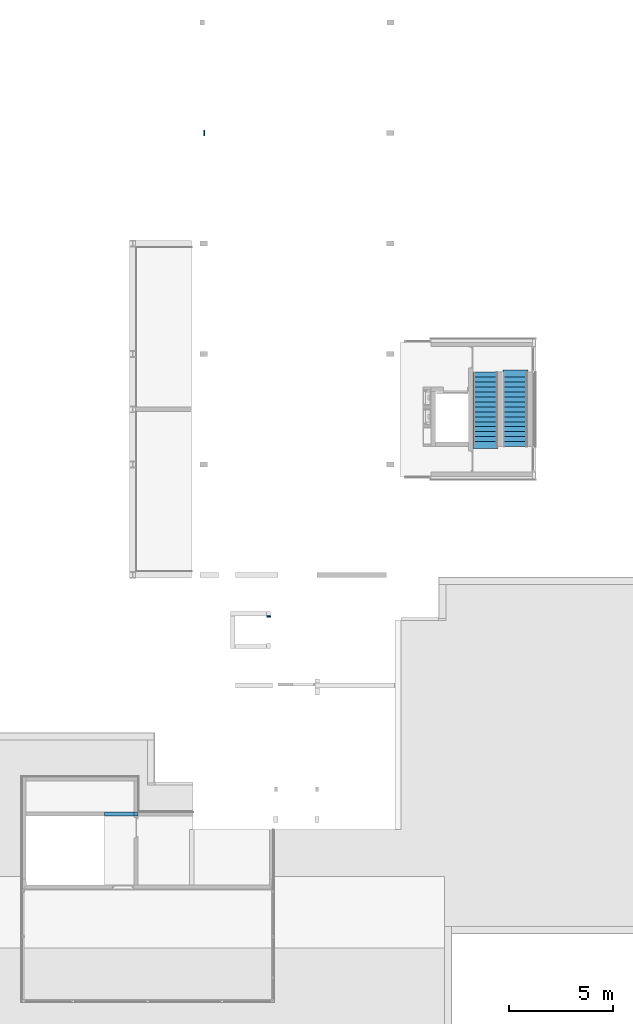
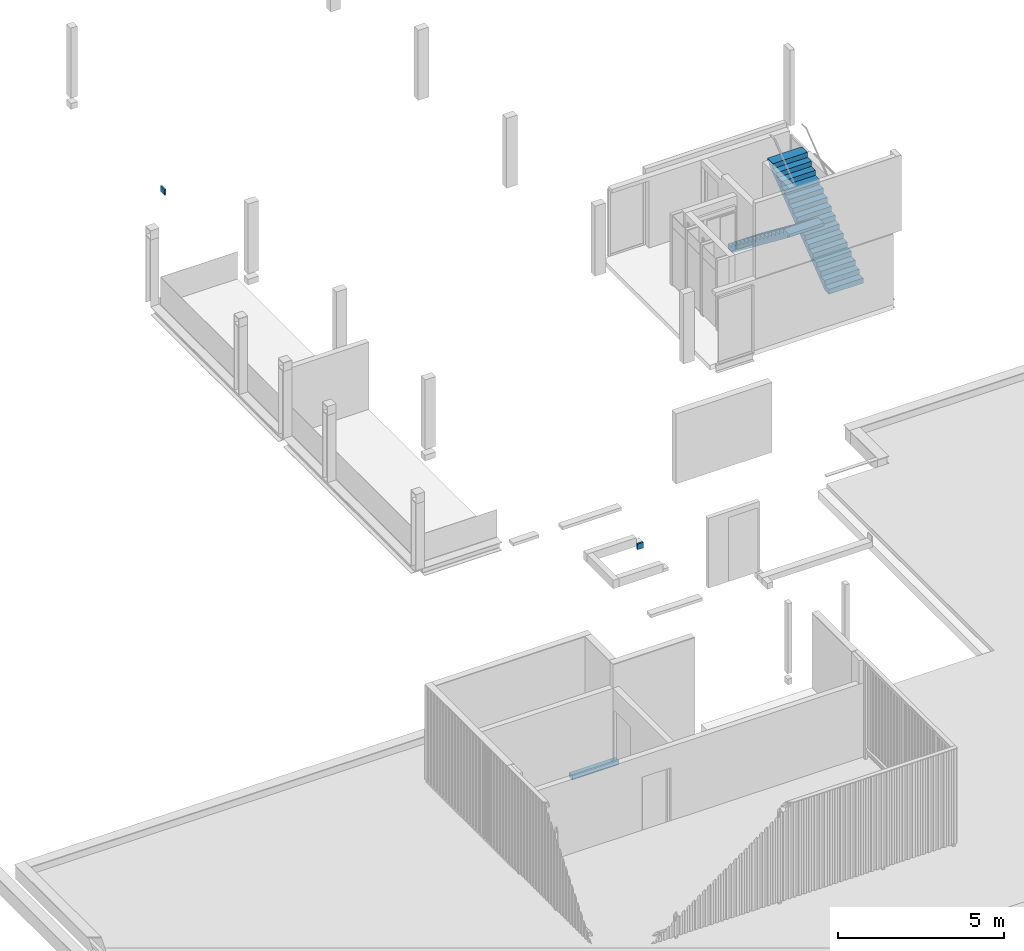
# One storey, part 8 of 22: 3 building element parts, 2 stair flights, 2 walls, 3 elements without a shape of their own.
"""IFC2X3 building model written with IfcOpenShell, lengths in millimetres."""

from ifc_helpers import new_model, entity, si_unit, converted_unit, derived_unit, money_unit, direction, frame, origin_with_axes, place, context, subcontext, project, spatial, faceted_brep, material, type_object, element, aggregate, save


model = new_model("IFC2X3")

# Units and contexts
model_context = context("Model", 3, precision=0.01, world=origin_with_axes(), true_north=direction((0.0, 1.0)))
body_context = subcontext(model_context, "Body", "Model", "MODEL_VIEW")
ifc_project = project(units=[si_unit("LENGTHUNIT", "METRE", prefix="MILLI"), si_unit("AREAUNIT", "SQUARE_METRE"), si_unit("VOLUMEUNIT", "CUBIC_METRE"), converted_unit("PLANEANGLEUNIT", "DEGREE", entity("IfcPlaneAngleMeasure", 0.0174532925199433), si_unit("PLANEANGLEUNIT", "RADIAN"), dimensions=[0, 0, 0, 0, 0, 0, 0]), money_unit("EUR"), converted_unit("TIMEUNIT", "Year", entity("IfcTimeMeasure", 31557600.0), si_unit("TIMEUNIT", "SECOND"), dimensions=[0, 0, 1, 0, 0, 0, 0]), si_unit("MASSUNIT", "GRAM", prefix="KILO"), si_unit("THERMODYNAMICTEMPERATUREUNIT", "DEGREE_CELSIUS"), si_unit("LUMINOUSINTENSITYUNIT", "LUMEN"), si_unit("ENERGYUNIT", "JOULE", prefix="MEGA"), derived_unit("THERMALCONDUCTANCEUNIT", [(si_unit("POWERUNIT", "WATT"), 1), (si_unit("LENGTHUNIT", "METRE"), -1), (si_unit("THERMODYNAMICTEMPERATUREUNIT", "KELVIN"), -1)]), derived_unit("SPECIFICHEATCAPACITYUNIT", [(si_unit("ENERGYUNIT", "JOULE"), 1), (si_unit("MASSUNIT", "GRAM", prefix="KILO"), -1), (si_unit("THERMODYNAMICTEMPERATUREUNIT", "KELVIN"), -1)]), derived_unit("MASSDENSITYUNIT", [(si_unit("MASSUNIT", "GRAM", prefix="KILO"), 1), (si_unit("VOLUMEUNIT", "CUBIC_METRE"), -1)])], contexts=[model_context])

# Site, building, storey
site_placement = place(None, origin_with_axes())
site = spatial("IfcSite", under=ifc_project, at=site_placement, Name="Site", CompositionType="ELEMENT")
building_placement = place(site_placement, origin_with_axes())
building = spatial("IfcBuilding", under=site, at=building_placement, Name="Naam gebouw", CompositionType="ELEMENT")
storey_placement = place(building_placement, frame((0.0, 0.0, 11150.0), z_axis=(0.0, 0.0, 1.0), x_axis=(1.0, 0.0, 0.0)))
storey = spatial("IfcBuildingStorey", under=building, at=storey_placement, Name="3e verdieping/dak N", CompositionType="ELEMENT", Elevation=11150.0)

# Walls
ifc_material_1 = material(Name="ALG - CONSTRUCTIEF")
wall_type_1 = type_object("IfcWallType", Name="ALG - CONSTRUCTIEF 200", PredefinedType="NOTDEFINED")
wall_1_placement = place(storey_placement, frame((23855.44427079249, 25919.44436129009, -99.99999999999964), z_axis=(0.0, 0.0, 1.0), x_axis=(0.0, 1.0, 0.0)))
element("IfcWall", 1, at=wall_1_placement, inside=storey, type_object=wall_type_1, material=ifc_material_1, Name="_Wand-x", context=body_context, shape_type="Brep", body=[
    faceted_brep([(61.46806381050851, 100.0000000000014, 0.0), (61.46806381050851, 100.0000000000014, 210.0000000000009), (61.46806381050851, -100.0000000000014, 210.0000000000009), (61.46806381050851, -100.0000000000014, 0.0), (0.0, 100.0000000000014, 0.0), (0.0, 100.0000000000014, 210.0000000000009), (0.0, -100.0000000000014, 210.0000000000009), (0.0, -100.0000000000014, 0.0)], [[[0, 1, 2, 3]], [[4, 5, 1, 0]], [[5, 6, 2, 1]], [[3, 2, 6, 7]], [[7, 4, 0, 3]], [[7, 6, 5, 4]]]),
])
wall_type_2 = type_object("IfcWallType", Name="ALG - CONSTRUCTIEF 250", PredefinedType="NOTDEFINED")
wall_2_placement = place(storey_placement, frame((20420.0, 49275.9124251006, -99.99999999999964), z_axis=(0.0, 0.0, 1.0), x_axis=(1.0, 0.0, 0.0)))
element("IfcWall", 2, at=wall_2_placement, inside=storey, type_object=wall_type_2, material=ifc_material_1, Name="_Wand-x", context=body_context, shape_type="Brep", body=[
    faceted_brep([(304.9999999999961, 125.0, 0.0), (304.9999999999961, 125.0, 210.0000000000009), (350.0000000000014, 125.0, 210.0000000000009), (350.0000000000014, 125.0, 0.0), (304.9999999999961, -125.0, 0.0), (304.9999999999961, -125.0, 210.0000000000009), (350.0000000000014, -125.0, 210.0000000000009), (350.0000000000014, -125.0, 0.0)], [[[0, 1, 2, 3]], [[4, 5, 1, 0]], [[5, 6, 2, 1]], [[3, 2, 6, 7]], [[3, 7, 4, 0]], [[7, 6, 5, 4]]]),
])

# Stair, stair flight
stair_1_placement = place(storey_placement, frame((0.0, 0.0, -11150.0), z_axis=(0.0, 0.0, 1.0), x_axis=(1.0, 0.0, 0.0)))
stair_1 = element("IfcStair", 3, at=stair_1_placement, inside=storey, Name="Precast Stair:Stair", ObjectType="Precast Stair:24_trap - prefab", ShapeType="NOTDEFINED")
ifc_material_2 = material(Name="beton")
stair_flight_type = type_object("IfcStairFlightType", Name="Monolithic Run:prefab trap", PredefinedType="STRAIGHT")
stair_flight_1_placement = place(stair_1_placement, frame((34923.00000006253, 34045.91242631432, 11460.0), z_axis=(0.0, 0.0, 1.0), x_axis=(0.0, 1.0, 0.0)))
stair_flight_1 = element("IfcStairFlight", 4, at=stair_flight_1_placement, type_object=stair_flight_type, material=ifc_material_2, Name="Precast Stair:Stair:2462951 Run 1", RiserHeight=0.605862, TreadLength=0.787402, context=body_context, shape_type="Brep", body=[
    faceted_brep([(3460.0, 0.0, 184.66666666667), (3700.0, 0.0, 184.66666666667), (3700.0, 1200.0, 184.66666666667), (3460.0, 1200.0, 184.66666666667), (3460.0, 0.0, 0.0), (3700.0, 0.0, 0.0), (3700.0, 1200.0, 0.0), (3460.0, 1200.0, 0.0), (3460.0, 1200.0, 369.33333333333), (3460.0, 0.0, 369.33333333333), (3220.0, 0.0, 369.33333333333), (3220.0, 0.0, 180.06894961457), (3454.02462765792, 0.0, 0.0), (3454.02462765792, 1200.0, 0.0), (3220.0, 1200.0, 180.06894961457), (3220.0, 1200.0, 369.33333333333), (3220.0, 0.0, 554.0), (2980.0, 0.0, 554.0), (2980.0, 0.0, 364.73561628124), (2740.0, 0.0, 549.4022829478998), (2500.0, 0.0, 734.0689496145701), (2260.0, 0.0, 918.7356162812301), (2020.0, 0.0, 1103.4022829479), (1780.0, 0.0, 1288.06894961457), (1540.0, 0.0, 1472.73561628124), (1300.0, 0.0, 1657.4022829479), (1060.0, 0.0, 1842.06894961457), (820.0000000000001, 0.0, 2026.73561628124), (580.0, 0.0, 2211.40228294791), (340.0, 0.0, 2396.06894961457), (100.0, 0.0, 2580.73561628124), (100.0, 1200.0, 2580.73561628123), (340.0, 1200.0, 2396.06894961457), (580.0, 1200.0, 2211.4022829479), (820.0000000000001, 1200.0, 2026.73561628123), (1060.0, 1200.0, 1842.06894961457), (1300.0, 1200.0, 1657.4022829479), (1540.0, 1200.0, 1472.73561628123), (1780.0, 1200.0, 1288.06894961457), (2020.0, 1200.0, 1103.4022829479), (2260.0, 1200.0, 918.7356162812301), (2500.0, 1200.0, 734.0689496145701), (2740.0, 1200.0, 549.4022829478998), (2980.0, 1200.0, 364.73561628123), (2980.0, 1200.0, 554.0), (3220.0, 1200.0, 554.0), (2980.0, 0.0, 738.6666666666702), (2740.0, 0.0, 738.6666666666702), (2740.0, 0.0, 923.33333333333), (2500.0, 0.0, 923.33333333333), (2500.0, 0.0, 1108.0), (2260.0, 0.0, 1108.0), (2260.0, 0.0, 1292.66666666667), (2020.0, 0.0, 1292.66666666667), (2020.0, 0.0, 1477.33333333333), (1780.0, 0.0, 1477.33333333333), (1780.0, 0.0, 1662.0), (1540.0, 0.0, 1662.0), (1540.0, 0.0, 1846.66666666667), (1300.0, 0.0, 1846.66666666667), (1300.0, 0.0, 2031.33333333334), (1060.0, 0.0, 2031.33333333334), (1060.0, 0.0, 2216.0), (820.0000000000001, 0.0, 2216.0), (820.0000000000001, 0.0, 2400.66666666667), (580.0, 0.0, 2400.66666666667), (580.0, 0.0, 2585.33333333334), (340.0, 0.0, 2585.33333333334), (340.0, 0.0, 2770.0), (0.0, 0.0, 2770.0), (0.0, 0.0, 2670.0), (100.0, 0.0, 2670.0), (100.0, 1200.0, 2670.0), (0.0, 1200.0, 2770.0), (340.0, 1200.0, 2770.0), (340.0, 1200.0, 2585.33333333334), (0.0, 1200.0, 2670.0), (580.0, 1200.0, 2585.33333333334), (580.0, 1200.0, 2400.66666666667), (820.0000000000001, 1200.0, 2400.66666666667), (820.0000000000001, 1200.0, 2216.0), (1060.0, 1200.0, 2216.0), (1060.0, 1200.0, 2031.33333333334), (1300.0, 1200.0, 2031.33333333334), (1300.0, 1200.0, 1846.66666666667), (1540.0, 1200.0, 1846.66666666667), (1540.0, 1200.0, 1662.0), (1780.0, 1200.0, 1662.0), (1780.0, 1200.0, 1477.33333333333), (2020.0, 1200.0, 1477.33333333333), (2020.0, 1200.0, 1292.66666666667), (2260.0, 1200.0, 1292.66666666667), (2260.0, 1200.0, 1108.0), (2500.0, 1200.0, 1108.0), (2500.0, 1200.0, 923.33333333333), (2740.0, 1200.0, 923.33333333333), (2740.0, 1200.0, 738.6666666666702), (2980.0, 1200.0, 738.6666666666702)], [[[0, 1, 2, 3]], [[1, 0, 4, 5]], [[2, 1, 5, 6]], [[3, 2, 6, 7]], [[0, 3, 8, 9]], [[4, 0, 9, 10, 11, 12]], [[5, 4, 12, 13, 7, 6]], [[3, 7, 13, 14, 15, 8]], [[10, 9, 8, 15]], [[16, 17, 18, 11, 10]], [[13, 12, 11, 18, 19, 20, 21, 22, 23, 24, 25, 26, 27, 28, 29, 30, 31, 32, 33, 34, 35, 36, 37, 38, 39, 40, 41, 42, 43, 14]], [[44, 45, 15, 14, 43]], [[10, 15, 45, 16]], [[17, 16, 45, 44]], [[46, 47, 19, 18, 17]], [[48, 49, 20, 19, 47]], [[50, 51, 21, 20, 49]], [[52, 53, 22, 21, 51]], [[54, 55, 23, 22, 53]], [[56, 57, 24, 23, 55]], [[58, 59, 25, 24, 57]], [[60, 61, 26, 25, 59]], [[62, 63, 27, 26, 61]], [[64, 65, 28, 27, 63]], [[66, 67, 29, 28, 65]], [[68, 69, 70, 71, 30, 29, 67]], [[31, 30, 71, 72]], [[73, 74, 75, 32, 31, 72, 76]], [[75, 77, 78, 33, 32]], [[78, 79, 80, 34, 33]], [[80, 81, 82, 35, 34]], [[82, 83, 84, 36, 35]], [[84, 85, 86, 37, 36]], [[86, 87, 88, 38, 37]], [[88, 89, 90, 39, 38]], [[90, 91, 92, 40, 39]], [[92, 93, 94, 41, 40]], [[94, 95, 96, 42, 41]], [[96, 97, 44, 43, 42]], [[17, 44, 97, 46]], [[47, 46, 97, 96]], [[49, 48, 95, 94]], [[47, 96, 95, 48]], [[51, 50, 93, 92]], [[49, 94, 93, 50]], [[53, 52, 91, 90]], [[51, 92, 91, 52]], [[55, 54, 89, 88]], [[53, 90, 89, 54]], [[57, 56, 87, 86]], [[55, 88, 87, 56]], [[59, 58, 85, 84]], [[57, 86, 85, 58]], [[61, 60, 83, 82]], [[59, 84, 83, 60]], [[63, 62, 81, 80]], [[61, 82, 81, 62]], [[65, 64, 79, 78]], [[63, 80, 79, 64]], [[67, 66, 77, 75]], [[65, 78, 77, 66]], [[68, 74, 73, 69]], [[76, 70, 69, 73]], [[76, 72, 71, 70]], [[67, 75, 74, 68]]]),
])
aggregate(stair_1, [stair_flight_1])

stair_2_placement = place(storey_placement, frame((0.0, 0.0, -11150.0), z_axis=(0.0, 0.0, 1.0), x_axis=(1.0, 0.0, 0.0)))
stair_2 = element("IfcStair", 5, at=stair_2_placement, inside=storey, Name="Precast Stair:Stair", ObjectType="Precast Stair:24_trap - prefab", ShapeType="NOTDEFINED")
stair_flight_2_placement = place(stair_2_placement, frame((36357.00000004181, 34145.91242629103, 11460.0), z_axis=(0.0, 0.0, 1.0), x_axis=(0.0, 1.0, 0.0)))
stair_flight_2 = element("IfcStairFlight", 6, at=stair_flight_2_placement, type_object=stair_flight_type, material=ifc_material_2, Name="Precast Stair:Stair:2462938 Run 1", RiserHeight=0.605862, TreadLength=0.787402, context=body_context, shape_type="Brep", body=[
    faceted_brep([(240.0, 1200.0, 184.66666666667), (0.0, 1200.0, 184.66666666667), (0.0, 0.0, 184.66666666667), (240.0, 0.0, 184.66666666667), (240.0, 1200.0, 0.0), (0.0, 1200.0, 0.0), (0.0, 0.0, 0.0), (240.0, 0.0, 0.0), (240.0, 0.0, 369.33333333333), (240.0, 1200.0, 369.33333333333), (480.0000000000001, 1200.0, 369.33333333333), (480.0000000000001, 1200.0, 180.06894961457), (245.97537234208, 1200.0, 0.0), (245.97537234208, 0.0, 0.0), (480.0000000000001, 0.0, 180.06894961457), (480.0000000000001, 0.0, 369.33333333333), (480.0000000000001, 1200.0, 554.0), (720.0000000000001, 1200.0, 554.0), (720.0000000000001, 1200.0, 364.73561628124), (960.0, 1200.0, 549.4022829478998), (1200.0, 1200.0, 734.0689496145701), (1440.0, 1200.0, 918.7356162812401), (1680.0, 1200.0, 1103.4022829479), (1920.0, 1200.0, 1288.06894961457), (2160.0, 1200.0, 1472.73561628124), (2400.0, 1200.0, 1657.40228294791), (2640.0, 1200.0, 1842.06894961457), (2880.0, 1200.0, 2026.73561628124), (3120.0, 1200.0, 2211.40228294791), (3360.0, 1200.0, 2396.06894961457), (3600.0, 1200.0, 2580.73561628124), (3600.0, 0.0, 2580.73561628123), (3360.0, 0.0, 2396.06894961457), (3120.0, 0.0, 2211.4022829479), (2880.0, 0.0, 2026.73561628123), (2640.0, 0.0, 1842.06894961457), (2400.0, 0.0, 1657.4022829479), (2160.0, 0.0, 1472.73561628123), (1920.0, 0.0, 1288.06894961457), (1680.0, 0.0, 1103.4022829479), (1440.0, 0.0, 918.7356162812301), (1200.0, 0.0, 734.0689496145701), (960.0, 0.0, 549.4022829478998), (720.0000000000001, 0.0, 364.73561628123), (720.0000000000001, 0.0, 554.0), (480.0000000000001, 0.0, 554.0), (720.0000000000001, 1200.0, 738.6666666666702), (960.0, 1200.0, 738.6666666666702), (960.0, 1200.0, 923.33333333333), (1200.0, 1200.0, 923.33333333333), (1200.0, 1200.0, 1108.0), (1440.0, 1200.0, 1108.0), (1440.0, 1200.0, 1292.66666666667), (1680.0, 1200.0, 1292.66666666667), (1680.0, 1200.0, 1477.33333333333), (1920.0, 1200.0, 1477.33333333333), (1920.0, 1200.0, 1662.0), (2160.0, 1200.0, 1662.0), (2160.0, 1200.0, 1846.66666666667), (2400.0, 1200.0, 1846.66666666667), (2400.0, 1200.0, 2031.33333333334), (2640.0, 1200.0, 2031.33333333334), (2640.0, 1200.0, 2216.0), (2880.0, 1200.0, 2216.0), (2880.0, 1200.0, 2400.66666666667), (3120.0, 1200.0, 2400.66666666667), (3120.0, 1200.0, 2585.33333333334), (3360.0, 1200.0, 2585.33333333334), (3360.0, 1200.0, 2770.0), (3700.0, 1200.0, 2770.0), (3700.0, 1200.0, 2670.0), (3600.0, 1200.0, 2670.0), (3600.0, 0.0, 2670.0), (3700.0, 0.0, 2770.0), (3360.0, 0.0, 2770.0), (3360.0, 0.0, 2585.33333333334), (3700.0, 0.0, 2670.0), (3120.0, 0.0, 2585.33333333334), (3120.0, 0.0, 2400.66666666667), (2880.0, 0.0, 2400.66666666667), (2880.0, 0.0, 2216.0), (2640.0, 0.0, 2216.0), (2640.0, 0.0, 2031.33333333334), (2400.0, 0.0, 2031.33333333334), (2400.0, 0.0, 1846.66666666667), (2160.0, 0.0, 1846.66666666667), (2160.0, 0.0, 1662.0), (1920.0, 0.0, 1662.0), (1920.0, 0.0, 1477.33333333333), (1680.0, 0.0, 1477.33333333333), (1680.0, 0.0, 1292.66666666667), (1440.0, 0.0, 1292.66666666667), (1440.0, 0.0, 1108.0), (1200.0, 0.0, 1108.0), (1200.0, 0.0, 923.33333333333), (960.0, 0.0, 923.33333333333), (960.0, 0.0, 738.6666666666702), (720.0000000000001, 0.0, 738.6666666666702)], [[[0, 1, 2, 3]], [[1, 0, 4, 5]], [[2, 1, 5, 6]], [[3, 2, 6, 7]], [[0, 3, 8, 9]], [[4, 0, 9, 10, 11, 12]], [[5, 4, 12, 13, 7, 6]], [[3, 7, 13, 14, 15, 8]], [[10, 9, 8, 15]], [[16, 17, 18, 11, 10]], [[13, 12, 11, 18, 19, 20, 21, 22, 23, 24, 25, 26, 27, 28, 29, 30, 31, 32, 33, 34, 35, 36, 37, 38, 39, 40, 41, 42, 43, 14]], [[44, 45, 15, 14, 43]], [[10, 15, 45, 16]], [[17, 16, 45, 44]], [[46, 47, 19, 18, 17]], [[48, 49, 20, 19, 47]], [[50, 51, 21, 20, 49]], [[52, 53, 22, 21, 51]], [[54, 55, 23, 22, 53]], [[56, 57, 24, 23, 55]], [[58, 59, 25, 24, 57]], [[60, 61, 26, 25, 59]], [[62, 63, 27, 26, 61]], [[64, 65, 28, 27, 63]], [[66, 67, 29, 28, 65]], [[68, 69, 70, 71, 30, 29, 67]], [[31, 30, 71, 72]], [[73, 74, 75, 32, 31, 72, 76]], [[75, 77, 78, 33, 32]], [[78, 79, 80, 34, 33]], [[80, 81, 82, 35, 34]], [[82, 83, 84, 36, 35]], [[84, 85, 86, 37, 36]], [[86, 87, 88, 38, 37]], [[88, 89, 90, 39, 38]], [[90, 91, 92, 40, 39]], [[92, 93, 94, 41, 40]], [[94, 95, 96, 42, 41]], [[96, 97, 44, 43, 42]], [[17, 44, 97, 46]], [[47, 46, 97, 96]], [[49, 48, 95, 94]], [[47, 96, 95, 48]], [[51, 50, 93, 92]], [[49, 94, 93, 50]], [[53, 52, 91, 90]], [[51, 92, 91, 52]], [[55, 54, 89, 88]], [[53, 90, 89, 54]], [[57, 56, 87, 86]], [[55, 88, 87, 56]], [[59, 58, 85, 84]], [[57, 86, 85, 58]], [[61, 60, 83, 82]], [[59, 84, 83, 60]], [[63, 62, 81, 80]], [[61, 82, 81, 62]], [[65, 64, 79, 78]], [[63, 80, 79, 64]], [[67, 66, 77, 75]], [[65, 78, 77, 66]], [[68, 74, 73, 69]], [[76, 70, 69, 73]], [[76, 72, 71, 70]], [[67, 75, 74, 68]]]),
])
aggregate(stair_2, [stair_flight_2])

# Slab, building element parts
slab_type = type_object("IfcSlabType", Name="Isolatie platdak 154", PredefinedType="NOTDEFINED")
slab_placement = place(storey_placement, frame((15940.50051848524, 16515.9124251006, 153.9999999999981), z_axis=(0.0, 0.0, 1.0), x_axis=(1.0, 0.0, 0.0)))
slab = element("IfcSlab", 7, at=slab_placement, inside=storey, type_object=slab_type, Name="_Vloer-x", PredefinedType="NOTDEFINED")
ifc_material_3 = material(Name="Membraan - waterdicht")
building_element_part_1_placement = place(slab_placement, origin_with_axes())
building_element_part_1 = element("IfcBuildingElementPart", 8, at=building_element_part_1_placement, material=ifc_material_3, Name="Membraan - waterdicht", context=body_context, shape_type="Brep", body=[
    faceted_brep([(1417.239255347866, -199.9999999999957, 0.0), (1417.239255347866, 0.0, 0.0), (0.0, 0.0, 0.0), (0.0, -199.9999999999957, 0.0), (1417.239255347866, 0.0, -2.000000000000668), (1417.239255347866, -199.9999999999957, -2.000000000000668), (0.0, 0.0, -2.000000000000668), (0.0, -199.9999999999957, -2.000000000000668)], [[[0, 1, 2, 3]], [[4, 1, 0, 5]], [[1, 4, 6, 2]], [[6, 7, 3, 2]], [[5, 0, 3, 7]], [[4, 5, 7, 6]]]),
])
ifc_material_4 = material(Name="Isolatie - Kunststof hard")
building_element_part_2_placement = place(slab_placement, origin_with_axes())
building_element_part_2 = element("IfcBuildingElementPart", 9, at=building_element_part_2_placement, material=ifc_material_4, Name="Isolatie - Kunststof hard", context=body_context, shape_type="Brep", body=[
    faceted_brep([(0.0, -199.9999999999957, -152.000000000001), (0.0, -199.9999999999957, -2.000000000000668), (0.0, 0.0, -2.000000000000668), (0.0, 0.0, -152.000000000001), (1617.239255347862, -199.9999999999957, -152.000000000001), (1617.239255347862, -199.9999999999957, -2.000000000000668), (1617.239255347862, 0.0, -2.000000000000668), (1617.239255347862, 0.0, -152.000000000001)], [[[0, 1, 2, 3]], [[4, 5, 1, 0]], [[2, 1, 5, 6]], [[3, 2, 6, 7]], [[3, 7, 4, 0]], [[7, 6, 5, 4]]]),
])
ifc_material_5 = material(Name="Membraan - dampdicht")
building_element_part_3_placement = place(slab_placement, origin_with_axes())
building_element_part_3 = element("IfcBuildingElementPart", 10, at=building_element_part_3_placement, material=ifc_material_5, Name="Membraan - dampdicht", context=body_context, shape_type="Brep", body=[
    faceted_brep([(0.0, 0.0, -151.9999999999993), (0.0, 0.0, -153.9999999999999), (0.0, -199.9999999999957, -153.9999999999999), (0.0, -199.9999999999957, -151.9999999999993), (1617.239255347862, 0.0, -151.9999999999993), (1617.239255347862, 0.0, -153.9999999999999), (1617.239255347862, -199.9999999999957, -153.9999999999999), (1617.239255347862, -199.9999999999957, -151.9999999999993)], [[[0, 1, 2, 3]], [[4, 5, 1, 0]], [[2, 1, 5, 6]], [[3, 2, 6, 7]], [[4, 0, 3, 7]], [[7, 6, 5, 4]]]),
])
aggregate(slab, [building_element_part_1, building_element_part_2, building_element_part_3])

save(model, "model.ifc")
